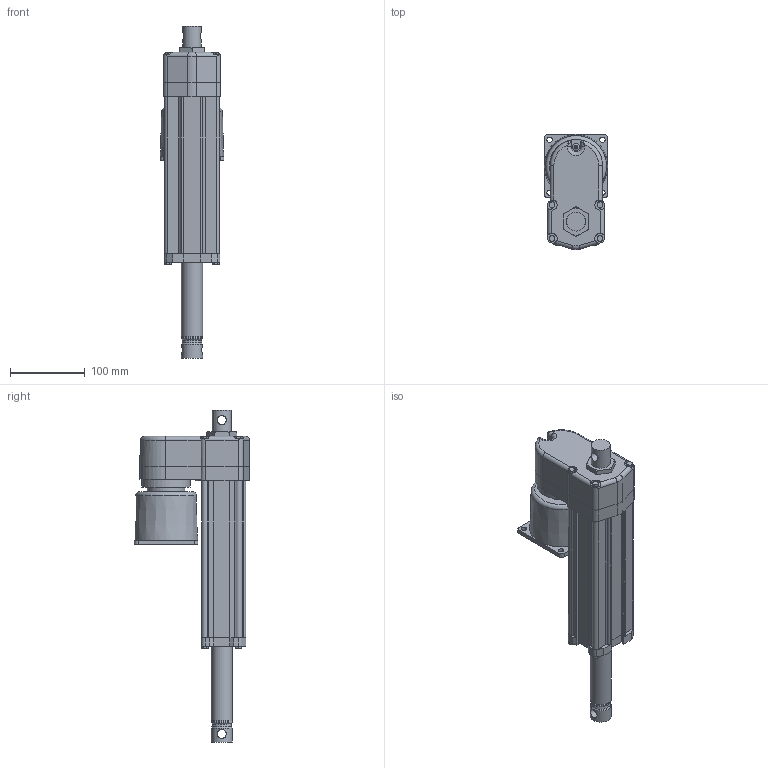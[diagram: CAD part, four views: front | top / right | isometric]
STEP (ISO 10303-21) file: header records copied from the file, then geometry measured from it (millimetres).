
FILE_DESCRIPTION (( 'STEP AP214' ), '1' );
FILE_NAME ('FA14-05B65M10M0_tollo.step', '2020-04-15T18:24:46', ( '' ), ( '' ), 'SwSTEP 2.0', 'SolidWorks 2010', '' );
FILE_SCHEMA (( 'AUTOMOTIVE_DESIGN' ));
Length unit declared in the file: millimetre
Products named in the file (9): Electrak-FA14-House-Ball-Tollo; Electrak-FA14-Rear-Tollo; Electrak-FA14-Motor-Tollo; Electrak-FA14-Tube-Ball-Tollo; Electrak-FA14-Plate-Tollo; Screw-MRT-TT-M5; Screw-M6S-M5; Electrak-FA14-Rod-Ball-Tollo; FA14-05B65M10M0_tollo
Assembly tree (15 placements, depth 3):
  FA14-05B65M10M0_tollo
    Electrak-FA14-House-Ball-Tollo
      Screw-M6S-M5  x8
      Electrak-FA14-Motor-Tollo
      Electrak-FA14-Rear-Tollo
      Electrak-FA14-Tube-Ball-Tollo
      Electrak-FA14-Plate-Tollo
      Screw-MRT-TT-M5
    Electrak-FA14-Rod-Ball-Tollo
Bounding box: 85 x 154.18 x 444 mm (x, y, z)
Volume: 1116401.8 mm3; surface area: 285420.2 mm2
Topology: 14 solids, 14 shells, 509 faces, 1279 edges, 826 vertices
Faces by surface type: plane 234, cylinder 198, cone 57, torus 18, bspline 2
Full cylindrical faces by diameter (mm): 4.126 x8, 4.8 x6, 5 x8, 5.6 x4, 6 x1, 7 x4, 7.878 x8, 9.5 x1, 11.741 x1, 12.2 x2, 25.4 x1, 28.5 x4, 34.5 x1, 47.625 x1, 50 x1, 65 x1, 80 x1
Entity records: 11671 total; most frequent: CARTESIAN_POINT 2704, DIRECTION 1857, ORIENTED_EDGE 1700, EDGE_CURVE 850, AXIS2_PLACEMENT_3D 686, VERTEX_POINT 577, LINE 485, VECTOR 485
